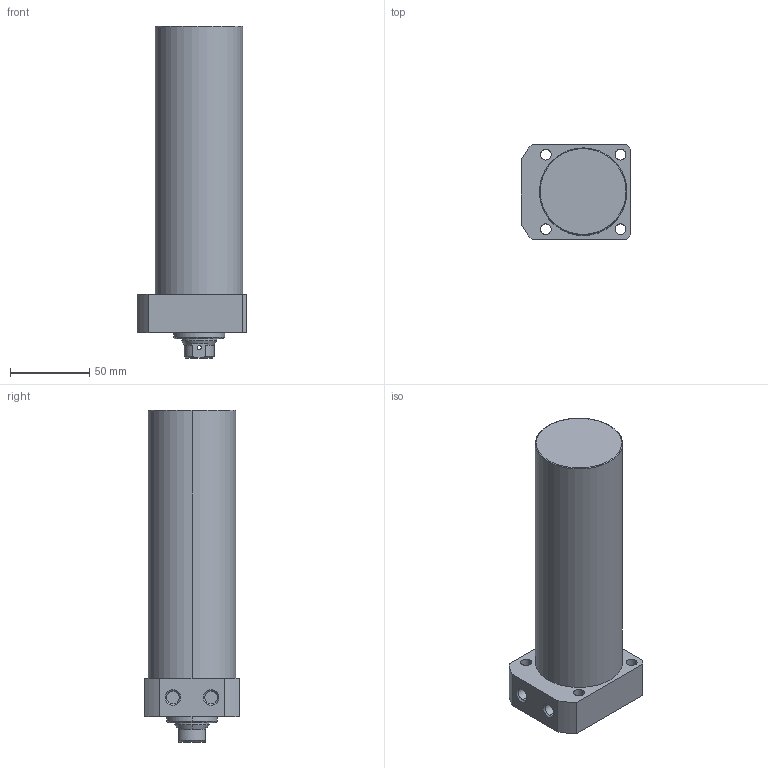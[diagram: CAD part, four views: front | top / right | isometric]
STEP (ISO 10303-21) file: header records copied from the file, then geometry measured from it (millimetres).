
FILE_DESCRIPTION (( 'STEP AP203' ), '1' );
FILE_NAME ('CLLR-055CB-140.STEP', '2019-12-17T11:59:27', ( '' ), ( '' ), 'SwSTEP 2.0', 'SolidWorks 2015', '' );
FILE_SCHEMA (( 'CONFIG_CONTROL_DESIGN' ));
Length unit declared in the file: millimetre
Products named in the file (1): CLLR-055CB-140
Bounding box: 69 x 60 x 209 mm (x, y, z)
Volume: 499100.5 mm3; surface area: 47536.6 mm2
Topology: 1 solids, 1 shells, 69 faces, 162 edges, 101 vertices
Faces by surface type: cylinder 33, plane 19, cone 15, torus 2
Entity records: 2175 total; most frequent: CARTESIAN_POINT 451, DIRECTION 368, ORIENTED_EDGE 320, EDGE_CURVE 160, AXIS2_PLACEMENT_3D 150, VERTEX_POINT 101, EDGE_LOOP 89, CIRCLE 80
